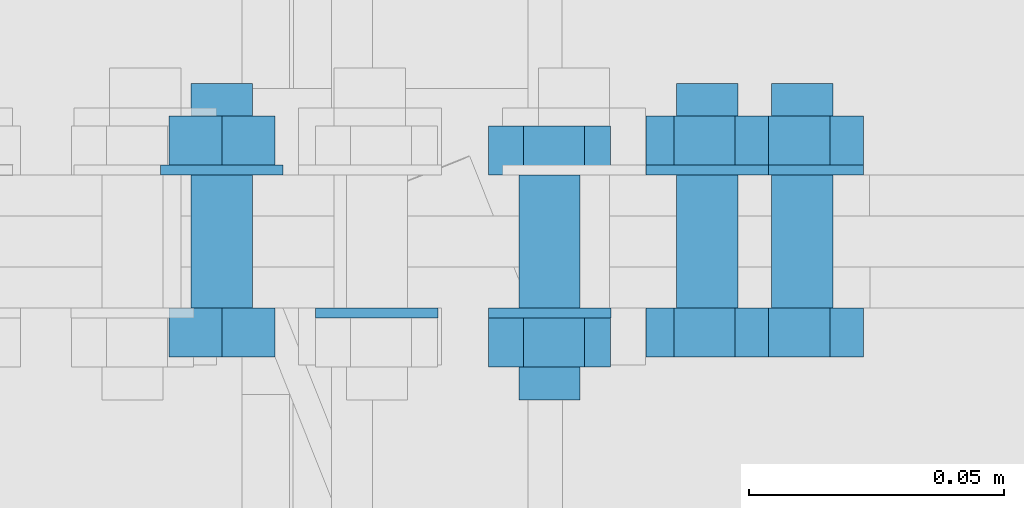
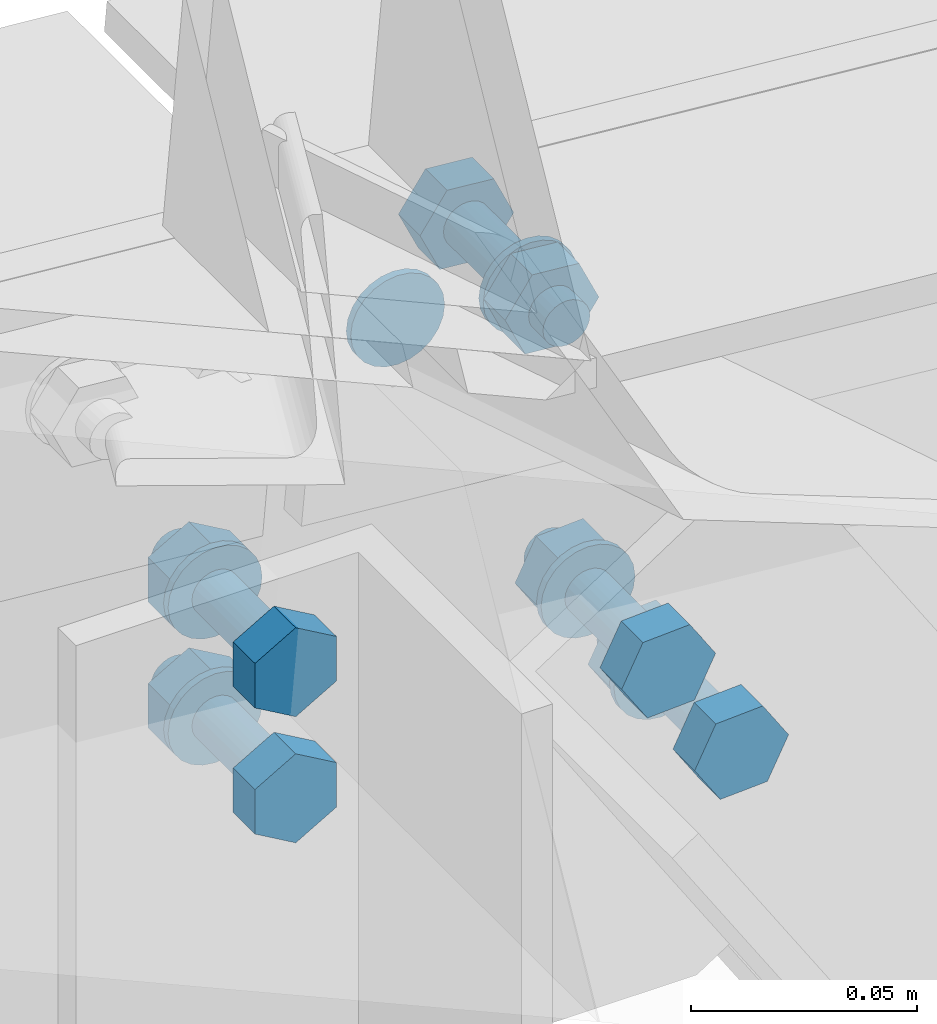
# One storey, part 211 of 251: 21 mechanical fasteners.
"""IFC4 building model written with IfcOpenShell, lengths in metres."""

from ifc_helpers import new_model, si_unit, frame, origin_with_axes, place, context, project, spatial, polyline, outline, extrude, type_object, element, save


model = new_model("IFC4")

# Units and contexts
model_context = context("Model", 3, precision=1e-05, world=origin_with_axes())
ifc_project = project(units=[si_unit("LENGTHUNIT", "METRE"), si_unit("AREAUNIT", "SQUARE_METRE"), si_unit("VOLUMEUNIT", "CUBIC_METRE"), si_unit("MASSUNIT", "GRAM", prefix="KILO"), si_unit("TIMEUNIT", "SECOND"), si_unit("PLANEANGLEUNIT", "RADIAN"), si_unit("SOLIDANGLEUNIT", "STERADIAN"), si_unit("THERMODYNAMICTEMPERATUREUNIT", "DEGREE_CELSIUS")], contexts=[model_context])

# Site, building, storey
placement_1 = place(None, origin_with_axes())
site = spatial("IfcSite", under=ifc_project, at=placement_1, Name="Italia", CompositionType="ELEMENT")
building = spatial("IfcBuilding", under=site, at=placement_1, Name="Deposito", CompositionType="ELEMENT")
storey = spatial("IfcBuildingStorey", under=building, at=placement_1, Name="Storey 0", CompositionType="ELEMENT", Elevation=0.0)

# Mechanical fasteners
mechanical_fastener_type_1 = type_object("IfcMechanicalFastenerType", Name="Reticolare 6", PredefinedType="BOLT")
placement_2 = place(placement_1, origin_with_axes())
mechanical_fastener_1_placement = place(placement_2, origin_with_axes())
element("IfcMechanicalFastener", 1, at=mechanical_fastener_1_placement, inside=storey, type_object=mechanical_fastener_type_1, Name="Reticolare 6", NominalDiameter=0.024, context=model_context, shape_type="SweptSolid", body=[
    extrude(outline(polyline([(0.0, 0.0), (-0.000409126, -0.00310564), (-0.00160789, -0.00600004), (-0.00351524, -0.00848532), (-0.00600052, -0.0103922), (-0.00889397, -0.011591), (-0.0120001, -0.0120001), (-0.0151062, -0.011591), (-0.0179996, -0.0103922), (-0.0204849, -0.00848532), (-0.0223923, -0.00600004), (-0.023591, -0.00310564), (-0.0240002, 0.0), (-0.023591, 0.00310564), (-0.0223923, 0.00600004), (-0.0204849, 0.00848532), (-0.0179996, 0.0103922), (-0.0151062, 0.011591), (-0.0120001, 0.0120001), (-0.00889397, 0.011591), (-0.00600052, 0.0103922), (-0.00351524, 0.00848532), (-0.00160789, 0.00600004), (-0.000409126, 0.00310564), (0.0, 0.0)])), frame((14.0342, 19.985, 6.51387), z_axis=(0.0, 1.0, 0.0), x_axis=(-1.0, 0.0, 0.0)), (0.0, 0.0, 1.0), 0.0019989),
])
mechanical_fastener_type_2 = type_object("IfcMechanicalFastenerType", Name="Reticolare 6", PredefinedType="BOLT")
mechanical_fastener_2_placement = place(placement_2, origin_with_axes())
element("IfcMechanicalFastener", 2, at=mechanical_fastener_2_placement, inside=storey, type_object=mechanical_fastener_type_2, Name="Reticolare 6", NominalDiameter=0.0119996, context=model_context, shape_type="SweptSolid", body=[
    extrude(outline(polyline([(0.0, 0.0), (0.0119543, 0.0010457), (0.0188379, -0.00878382), (0.0137663, -0.0196595), (0.00181198, -0.0207052), (-0.00507069, -0.0108757), (0.0, 0.0)])), frame((14.0869, 20.013, 6.52073), z_axis=(0.0, 1.0, 0.0), x_axis=(-1.0, 0.0, 0.0)), (0.0, 0.0, 1.0), 0.00959969),
])
mechanical_fastener_type_3 = type_object("IfcMechanicalFastenerType", Name="Reticolare 6", PredefinedType="BOLT")
mechanical_fastener_3_placement = place(placement_2, origin_with_axes())
element("IfcMechanicalFastener", 3, at=mechanical_fastener_3_placement, inside=storey, type_object=mechanical_fastener_type_3, Name="Reticolare 6", NominalDiameter=0.012, context=model_context, shape_type="SweptSolid", body=[
    extrude(outline(polyline([(0.0, 0.0), (-0.000204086, -0.00155306), (-0.000802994, -0.00299978), (-0.00175667, -0.00424242), (-0.00299931, -0.00519609), (-0.00444698, -0.00579548), (-0.00599957, -0.00600004), (-0.00755215, -0.00579548), (-0.00899982, -0.00519609), (-0.0102425, -0.00424242), (-0.0111961, -0.00299978), (-0.011795, -0.00155306), (-0.0119991, 0.0), (-0.011795, 0.00155306), (-0.0111961, 0.00299978), (-0.0102425, 0.00424242), (-0.00899982, 0.00519609), (-0.00755215, 0.00579548), (-0.00599957, 0.00600004), (-0.00444698, 0.00579548), (-0.00299931, 0.00519609), (-0.00175667, 0.00424242), (-0.000802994, 0.00299978), (-0.000204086, 0.00155306), (0.0, 0.0)])), frame((14.074, 19.969, 6.5109), z_axis=(0.0, 1.0, 0.0), x_axis=(-1.0, 0.0, 0.0)), (0.0, 0.0, 1.0), 0.0440006),
])
mechanical_fastener_type_4 = type_object("IfcMechanicalFastenerType", Name="Reticolare 6", PredefinedType="BOLT")
mechanical_fastener_4_placement = place(placement_2, origin_with_axes())
element("IfcMechanicalFastener", 4, at=mechanical_fastener_4_placement, inside=storey, type_object=mechanical_fastener_type_4, Name="Reticolare 6", NominalDiameter=0.0119996, context=model_context, shape_type="SweptSolid", body=[
    extrude(outline(polyline([(0.0, 0.0), (0.0119543, 0.0010457), (0.0188379, -0.00878382), (0.0137663, -0.0196595), (0.00181198, -0.0207052), (-0.00507069, -0.0108757), (0.0, 0.0)])), frame((14.0869, 19.9754, 6.52073), z_axis=(0.0, 1.0, 0.0), x_axis=(-1.0, 0.0, 0.0)), (0.0, 0.0, 1.0), 0.00959969),
])
mechanical_fastener_type_5 = type_object("IfcMechanicalFastenerType", Name="Reticolare 6", PredefinedType="BOLT")
mechanical_fastener_5_placement = place(placement_2, origin_with_axes())
element("IfcMechanicalFastener", 5, at=mechanical_fastener_5_placement, inside=storey, type_object=mechanical_fastener_type_5, Name="Reticolare 6", NominalDiameter=0.024, context=model_context, shape_type="SweptSolid", body=[
    extrude(outline(polyline([(0.0, 0.0), (-0.000409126, -0.00310564), (-0.00160789, -0.00600004), (-0.00351524, -0.00848532), (-0.00600052, -0.0103922), (-0.00889397, -0.011591), (-0.0120001, -0.0120001), (-0.0151062, -0.011591), (-0.0179996, -0.0103922), (-0.0204849, -0.00848532), (-0.0223923, -0.00600004), (-0.023591, -0.00310564), (-0.0240002, 0.0), (-0.023591, 0.00310564), (-0.0223923, 0.00600004), (-0.0204849, 0.00848532), (-0.0179996, 0.0103922), (-0.0151062, 0.011591), (-0.0120001, 0.0120001), (-0.00889397, 0.011591), (-0.00600052, 0.0103922), (-0.00351524, 0.00848532), (-0.00160789, 0.00600004), (-0.000409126, 0.00310564), (0.0, 0.0)])), frame((14.068, 19.985, 6.5109), z_axis=(0.0, 1.0, 0.0), x_axis=(-1.0, 0.0, 0.0)), (0.0, 0.0, 1.0), 0.0019989),
])
mechanical_fastener_type_6 = type_object("IfcMechanicalFastenerType", Name="Reticolare 6", PredefinedType="BOLT")
mechanical_fastener_6_placement = place(placement_2, origin_with_axes())
element("IfcMechanicalFastener", 6, at=mechanical_fastener_6_placement, inside=storey, type_object=mechanical_fastener_type_6, Name="Reticolare 6", NominalDiameter=0.0119999, context=model_context, shape_type="SweptSolid", body=[
    extrude(outline(polyline([(0.0, 0.0), (0.0, -0.0120001), (-0.0103922, -0.0180001), (-0.0207844, -0.0120001), (-0.0207844, 0.0), (-0.0103922, 0.00600004), (0.0, 0.0)])), frame((14.0262, 19.987, 6.44017), z_axis=(0.0, -1.0, 0.0), x_axis=(1.0, 0.0, 0.0)), (0.0, 0.0, 1.0), 0.00959969),
])
mechanical_fastener_type_7 = type_object("IfcMechanicalFastenerType", Name="Reticolare 6", PredefinedType="BOLT")
mechanical_fastener_7_placement = place(placement_2, origin_with_axes())
element("IfcMechanicalFastener", 7, at=mechanical_fastener_7_placement, inside=storey, type_object=mechanical_fastener_type_7, Name="Reticolare 6", NominalDiameter=0.012, context=model_context, shape_type="SweptSolid", body=[
    extrude(outline(polyline([(0.0, 0.0), (-0.000204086, -0.00155306), (-0.000802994, -0.00299978), (-0.00175667, -0.00424242), (-0.00299931, -0.00519609), (-0.00444698, -0.00579548), (-0.00599957, -0.00600004), (-0.00755215, -0.00579548), (-0.00899982, -0.00519609), (-0.0102425, -0.00424242), (-0.0111961, -0.00299978), (-0.011795, -0.00155306), (-0.0119991, 0.0), (-0.011795, 0.00155306), (-0.0111961, 0.00299978), (-0.0102425, 0.00424242), (-0.00899982, 0.00519609), (-0.00755215, 0.00579548), (-0.00599957, 0.00600004), (-0.00444698, 0.00579548), (-0.00299931, 0.00519609), (-0.00175667, 0.00424242), (-0.000802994, 0.00299978), (-0.000204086, 0.00155306), (0.0, 0.0)])), frame((14.0218, 20.031, 6.43417), z_axis=(0.0, -1.0, 0.0), x_axis=(1.0, 0.0, 0.0)), (0.0, 0.0, 1.0), 0.0440006),
])
mechanical_fastener_type_8 = type_object("IfcMechanicalFastenerType", Name="Reticolare 6", PredefinedType="BOLT")
mechanical_fastener_8_placement = place(placement_2, origin_with_axes())
element("IfcMechanicalFastener", 8, at=mechanical_fastener_8_placement, inside=storey, type_object=mechanical_fastener_type_8, Name="Reticolare 6", NominalDiameter=0.0119999, context=model_context, shape_type="SweptSolid", body=[
    extrude(outline(polyline([(0.0, 0.0), (0.0, -0.0120001), (-0.0103922, -0.0180001), (-0.0207844, -0.0120001), (-0.0207844, 0.0), (-0.0103922, 0.00600004), (0.0, 0.0)])), frame((14.0262, 20.0246, 6.44017), z_axis=(0.0, -1.0, 0.0), x_axis=(1.0, 0.0, 0.0)), (0.0, 0.0, 1.0), 0.00959969),
])
mechanical_fastener_type_9 = type_object("IfcMechanicalFastenerType", Name="Reticolare 6", PredefinedType="BOLT")
mechanical_fastener_9_placement = place(placement_2, origin_with_axes())
element("IfcMechanicalFastener", 9, at=mechanical_fastener_9_placement, inside=storey, type_object=mechanical_fastener_type_9, Name="Reticolare 6", NominalDiameter=0.024, context=model_context, shape_type="SweptSolid", body=[
    extrude(outline(polyline([(0.0, 0.0), (-0.000409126, -0.00310564), (-0.00160789, -0.00600004), (-0.00351524, -0.00848532), (-0.00600052, -0.0103922), (-0.00889397, -0.011591), (-0.0120001, -0.0120001), (-0.0151062, -0.011591), (-0.0179996, -0.0103922), (-0.0204849, -0.00848532), (-0.0223923, -0.00600004), (-0.023591, -0.00310564), (-0.0240002, 0.0), (-0.023591, 0.00310564), (-0.0223923, 0.00600004), (-0.0204849, 0.00848532), (-0.0179996, 0.0103922), (-0.0151062, 0.011591), (-0.0120001, 0.0120001), (-0.00889397, 0.011591), (-0.00600052, 0.0103922), (-0.00351524, 0.00848532), (-0.00160789, 0.00600004), (-0.000409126, 0.00310564), (0.0, 0.0)])), frame((14.0278, 20.015, 6.43417), z_axis=(0.0, -1.0, 0.0), x_axis=(1.0, 0.0, 0.0)), (0.0, 0.0, 1.0), 0.0019989),
])
mechanical_fastener_type_10 = type_object("IfcMechanicalFastenerType", Name="Reticolare 6", PredefinedType="BOLT")
mechanical_fastener_10_placement = place(placement_2, origin_with_axes())
element("IfcMechanicalFastener", 10, at=mechanical_fastener_10_placement, inside=storey, type_object=mechanical_fastener_type_10, Name="Reticolare 6", NominalDiameter=0.0119999, context=model_context, shape_type="SweptSolid", body=[
    extrude(outline(polyline([(0.0, 0.0), (0.0, -0.0120001), (-0.0103922, -0.0180001), (-0.0207844, -0.0120001), (-0.0207844, 0.0), (-0.0103922, 0.00600004), (0.0, 0.0)])), frame((14.0262, 19.987, 6.40617), z_axis=(0.0, -1.0, 0.0), x_axis=(1.0, 0.0, 0.0)), (0.0, 0.0, 1.0), 0.00959969),
])
mechanical_fastener_type_11 = type_object("IfcMechanicalFastenerType", Name="Reticolare 6", PredefinedType="BOLT")
mechanical_fastener_11_placement = place(placement_2, origin_with_axes())
element("IfcMechanicalFastener", 11, at=mechanical_fastener_11_placement, inside=storey, type_object=mechanical_fastener_type_11, Name="Reticolare 6", NominalDiameter=0.012, context=model_context, shape_type="SweptSolid", body=[
    extrude(outline(polyline([(0.0, 0.0), (-0.000204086, -0.00155306), (-0.000802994, -0.00299978), (-0.00175667, -0.00424242), (-0.00299931, -0.00519609), (-0.00444698, -0.00579548), (-0.00599957, -0.00600004), (-0.00755215, -0.00579548), (-0.00899982, -0.00519609), (-0.0102425, -0.00424242), (-0.0111961, -0.00299978), (-0.011795, -0.00155306), (-0.0119991, 0.0), (-0.011795, 0.00155306), (-0.0111961, 0.00299978), (-0.0102425, 0.00424242), (-0.00899982, 0.00519609), (-0.00755215, 0.00579548), (-0.00599957, 0.00600004), (-0.00444698, 0.00579548), (-0.00299931, 0.00519609), (-0.00175667, 0.00424242), (-0.000802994, 0.00299978), (-0.000204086, 0.00155306), (0.0, 0.0)])), frame((14.0218, 20.031, 6.40017), z_axis=(0.0, -1.0, 0.0), x_axis=(1.0, 0.0, 0.0)), (0.0, 0.0, 1.0), 0.0440006),
])
mechanical_fastener_type_12 = type_object("IfcMechanicalFastenerType", Name="Reticolare 6", PredefinedType="BOLT")
mechanical_fastener_12_placement = place(placement_2, origin_with_axes())
element("IfcMechanicalFastener", 12, at=mechanical_fastener_12_placement, inside=storey, type_object=mechanical_fastener_type_12, Name="Reticolare 6", NominalDiameter=0.0119999, context=model_context, shape_type="SweptSolid", body=[
    extrude(outline(polyline([(0.0, 0.0), (0.0, -0.0120001), (-0.0103922, -0.0180001), (-0.0207844, -0.0120001), (-0.0207844, 0.0), (-0.0103922, 0.00600004), (0.0, 0.0)])), frame((14.0262, 20.0246, 6.40617), z_axis=(0.0, -1.0, 0.0), x_axis=(1.0, 0.0, 0.0)), (0.0, 0.0, 1.0), 0.00959969),
])
mechanical_fastener_type_13 = type_object("IfcMechanicalFastenerType", Name="Reticolare 6", PredefinedType="BOLT")
mechanical_fastener_13_placement = place(placement_2, origin_with_axes())
element("IfcMechanicalFastener", 13, at=mechanical_fastener_13_placement, inside=storey, type_object=mechanical_fastener_type_13, Name="Reticolare 6", NominalDiameter=0.024, context=model_context, shape_type="SweptSolid", body=[
    extrude(outline(polyline([(0.0, 0.0), (-0.000409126, -0.00310564), (-0.00160789, -0.00600004), (-0.00351524, -0.00848532), (-0.00600052, -0.0103922), (-0.00889397, -0.011591), (-0.0120001, -0.0120001), (-0.0151062, -0.011591), (-0.0179996, -0.0103922), (-0.0204849, -0.00848532), (-0.0223923, -0.00600004), (-0.023591, -0.00310564), (-0.0240002, 0.0), (-0.023591, 0.00310564), (-0.0223923, 0.00600004), (-0.0204849, 0.00848532), (-0.0179996, 0.0103922), (-0.0151062, 0.011591), (-0.0120001, 0.0120001), (-0.00889397, 0.011591), (-0.00600052, 0.0103922), (-0.00351524, 0.00848532), (-0.00160789, 0.00600004), (-0.000409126, 0.00310564), (0.0, 0.0)])), frame((14.0278, 20.015, 6.40017), z_axis=(0.0, -1.0, 0.0), x_axis=(1.0, 0.0, 0.0)), (0.0, 0.0, 1.0), 0.0019989),
])
mechanical_fastener_type_14 = type_object("IfcMechanicalFastenerType", Name="Reticolare 6", PredefinedType="BOLT")
mechanical_fastener_14_placement = place(placement_2, origin_with_axes())
element("IfcMechanicalFastener", 14, at=mechanical_fastener_14_placement, inside=storey, type_object=mechanical_fastener_type_14, Name="Reticolare 6", NominalDiameter=0.0119996, context=model_context, shape_type="SweptSolid", body=[
    extrude(outline(polyline([(0.0, 0.0), (-0.00656891, 0.0100422), (-0.00115585, 0.0207524), (0.0108252, 0.02142), (0.0173941, 0.0113778), (0.011982, 0.000667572), (0.0, 0.0)])), frame((14.1055, 19.987, 6.39041), z_axis=(0.0, -1.0, 0.0), x_axis=(1.0, 0.0, 0.0)), (0.0, 0.0, 1.0), 0.00959969),
])
mechanical_fastener_type_15 = type_object("IfcMechanicalFastenerType", Name="Reticolare 6", PredefinedType="BOLT")
mechanical_fastener_15_placement = place(placement_2, origin_with_axes())
element("IfcMechanicalFastener", 15, at=mechanical_fastener_15_placement, inside=storey, type_object=mechanical_fastener_type_15, Name="Reticolare 6", NominalDiameter=0.012, context=model_context, shape_type="SweptSolid", body=[
    extrude(outline(polyline([(0.0, 0.0), (-0.000204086, -0.00155306), (-0.000802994, -0.00299978), (-0.00175667, -0.00424242), (-0.00299931, -0.00519609), (-0.00444698, -0.00579548), (-0.00599957, -0.00600004), (-0.00755215, -0.00579548), (-0.00899982, -0.00519609), (-0.0102425, -0.00424242), (-0.0111961, -0.00299978), (-0.011795, -0.00155306), (-0.0119991, 0.0), (-0.011795, 0.00155306), (-0.0111961, 0.00299978), (-0.0102425, 0.00424242), (-0.00899982, 0.00519609), (-0.00755215, 0.00579548), (-0.00599957, 0.00600004), (-0.00444698, 0.00579548), (-0.00299931, 0.00519609), (-0.00175667, 0.00424242), (-0.000802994, 0.00299978), (-0.000204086, 0.00155306), (0.0, 0.0)])), frame((14.1169, 20.031, 6.40112), z_axis=(0.0, -1.0, 0.0), x_axis=(1.0, 0.0, 0.0)), (0.0, 0.0, 1.0), 0.0440006),
])
mechanical_fastener_type_16 = type_object("IfcMechanicalFastenerType", Name="Reticolare 6", PredefinedType="BOLT")
mechanical_fastener_16_placement = place(placement_2, origin_with_axes())
element("IfcMechanicalFastener", 16, at=mechanical_fastener_16_placement, inside=storey, type_object=mechanical_fastener_type_16, Name="Reticolare 6", NominalDiameter=0.0119996, context=model_context, shape_type="SweptSolid", body=[
    extrude(outline(polyline([(0.0, 0.0), (-0.00656891, 0.0100422), (-0.00115585, 0.0207524), (0.0108252, 0.02142), (0.0173941, 0.0113778), (0.011982, 0.000667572), (0.0, 0.0)])), frame((14.1055, 20.0246, 6.39041), z_axis=(0.0, -1.0, 0.0), x_axis=(1.0, 0.0, 0.0)), (0.0, 0.0, 1.0), 0.00959969),
])
mechanical_fastener_type_17 = type_object("IfcMechanicalFastenerType", Name="Reticolare 6", PredefinedType="BOLT")
mechanical_fastener_17_placement = place(placement_2, origin_with_axes())
element("IfcMechanicalFastener", 17, at=mechanical_fastener_17_placement, inside=storey, type_object=mechanical_fastener_type_17, Name="Reticolare 6", NominalDiameter=0.024, context=model_context, shape_type="SweptSolid", body=[
    extrude(outline(polyline([(0.0, 0.0), (-0.000409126, -0.00310564), (-0.00160789, -0.00600004), (-0.00351524, -0.00848532), (-0.00600052, -0.0103922), (-0.00889397, -0.011591), (-0.0120001, -0.0120001), (-0.0151062, -0.011591), (-0.0179996, -0.0103922), (-0.0204849, -0.00848532), (-0.0223923, -0.00600004), (-0.023591, -0.00310564), (-0.0240002, 0.0), (-0.023591, 0.00310564), (-0.0223923, 0.00600004), (-0.0204849, 0.00848532), (-0.0179996, 0.0103922), (-0.0151062, 0.011591), (-0.0120001, 0.0120001), (-0.00889397, 0.011591), (-0.00600052, 0.0103922), (-0.00351524, 0.00848532), (-0.00160789, 0.00600004), (-0.000409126, 0.00310564), (0.0, 0.0)])), frame((14.1229, 20.015, 6.40112), z_axis=(0.0, -1.0, 0.0), x_axis=(1.0, 0.0, 0.0)), (0.0, 0.0, 1.0), 0.0019989),
])
mechanical_fastener_type_18 = type_object("IfcMechanicalFastenerType", Name="Reticolare 6", PredefinedType="BOLT")
mechanical_fastener_18_placement = place(placement_2, origin_with_axes())
element("IfcMechanicalFastener", 18, at=mechanical_fastener_18_placement, inside=storey, type_object=mechanical_fastener_type_18, Name="Reticolare 6", NominalDiameter=0.0119996, context=model_context, shape_type="SweptSolid", body=[
    extrude(outline(polyline([(0.0, 0.0), (-0.00656986, 0.0100422), (-0.00115681, 0.0207524), (0.0108242, 0.02142), (0.0173931, 0.0113778), (0.011981, 0.000667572), (0.0, 0.0)])), frame((14.1241, 19.987, 6.36196), z_axis=(0.0, -1.0, 0.0), x_axis=(1.0, 0.0, 0.0)), (0.0, 0.0, 1.0), 0.00959969),
])
mechanical_fastener_type_19 = type_object("IfcMechanicalFastenerType", Name="Reticolare 6", PredefinedType="BOLT")
mechanical_fastener_19_placement = place(placement_2, origin_with_axes())
element("IfcMechanicalFastener", 19, at=mechanical_fastener_19_placement, inside=storey, type_object=mechanical_fastener_type_19, Name="Reticolare 6", NominalDiameter=0.012, context=model_context, shape_type="SweptSolid", body=[
    extrude(outline(polyline([(0.0, 0.0), (-0.000204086, -0.00155306), (-0.000802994, -0.00299978), (-0.00175667, -0.00424242), (-0.00299931, -0.00519609), (-0.00444698, -0.00579548), (-0.00599957, -0.00600004), (-0.00755215, -0.00579548), (-0.00899982, -0.00519609), (-0.0102425, -0.00424242), (-0.0111961, -0.00299978), (-0.011795, -0.00155306), (-0.0119991, 0.0), (-0.011795, 0.00155306), (-0.0111961, 0.00299978), (-0.0102425, 0.00424242), (-0.00899982, 0.00519609), (-0.00755215, 0.00579548), (-0.00599957, 0.00600004), (-0.00444698, 0.00579548), (-0.00299931, 0.00519609), (-0.00175667, 0.00424242), (-0.000802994, 0.00299978), (-0.000204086, 0.00155306), (0.0, 0.0)])), frame((14.1355, 20.031, 6.37267), z_axis=(0.0, -1.0, 0.0), x_axis=(1.0, 0.0, 0.0)), (0.0, 0.0, 1.0), 0.0440006),
])
mechanical_fastener_type_20 = type_object("IfcMechanicalFastenerType", Name="Reticolare 6", PredefinedType="BOLT")
mechanical_fastener_20_placement = place(placement_2, origin_with_axes())
element("IfcMechanicalFastener", 20, at=mechanical_fastener_20_placement, inside=storey, type_object=mechanical_fastener_type_20, Name="Reticolare 6", NominalDiameter=0.0119996, context=model_context, shape_type="SweptSolid", body=[
    extrude(outline(polyline([(0.0, 0.0), (-0.00656986, 0.0100422), (-0.00115681, 0.0207524), (0.0108242, 0.02142), (0.0173931, 0.0113778), (0.011981, 0.000667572), (0.0, 0.0)])), frame((14.1241, 20.0246, 6.36196), z_axis=(0.0, -1.0, 0.0), x_axis=(1.0, 0.0, 0.0)), (0.0, 0.0, 1.0), 0.00959969),
])
mechanical_fastener_type_21 = type_object("IfcMechanicalFastenerType", Name="Reticolare 6", PredefinedType="BOLT")
mechanical_fastener_21_placement = place(placement_2, origin_with_axes())
element("IfcMechanicalFastener", 21, at=mechanical_fastener_21_placement, inside=storey, type_object=mechanical_fastener_type_21, Name="Reticolare 6", NominalDiameter=0.024, context=model_context, shape_type="SweptSolid", body=[
    extrude(outline(polyline([(0.0, 0.0), (-0.000409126, -0.00310564), (-0.00160789, -0.00600004), (-0.00351524, -0.00848532), (-0.00600052, -0.0103922), (-0.00889397, -0.011591), (-0.0120001, -0.0120001), (-0.0151062, -0.011591), (-0.0179996, -0.0103922), (-0.0204849, -0.00848532), (-0.0223923, -0.00600004), (-0.023591, -0.00310564), (-0.0240002, 0.0), (-0.023591, 0.00310564), (-0.0223923, 0.00600004), (-0.0204849, 0.00848532), (-0.0179996, 0.0103922), (-0.0151062, 0.011591), (-0.0120001, 0.0120001), (-0.00889397, 0.011591), (-0.00600052, 0.0103922), (-0.00351524, 0.00848532), (-0.00160789, 0.00600004), (-0.000409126, 0.00310564), (0.0, 0.0)])), frame((14.1415, 20.015, 6.37267), z_axis=(0.0, -1.0, 0.0), x_axis=(1.0, 0.0, 0.0)), (0.0, 0.0, 1.0), 0.0019989),
])

save(model, "model.ifc")
